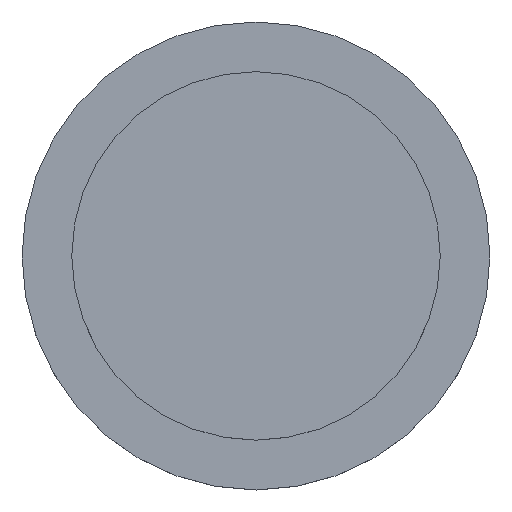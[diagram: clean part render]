
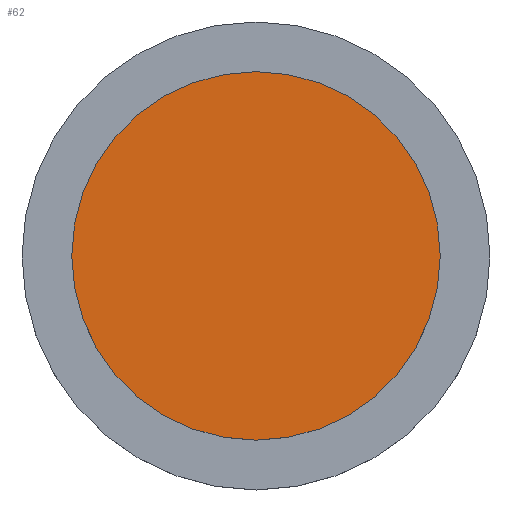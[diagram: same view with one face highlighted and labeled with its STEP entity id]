
A CAD part, top view. The second image highlights one B-rep face of the part: STEP entity #62.
In plain terms, the highlighted planar face has unit normal (0, 0, 1).
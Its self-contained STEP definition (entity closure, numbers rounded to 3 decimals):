
#62=ADVANCED_FACE('',(#80),#81,.T.);
#80=FACE_OUTER_BOUND('',#98,.T.);
#81=PLANE('',#99);
#98=EDGE_LOOP('',(#150,#151));
#99=AXIS2_PLACEMENT_3D('',#152,#153,#154);
#150=ORIENTED_EDGE('',*,*,#166,.T.);
#151=ORIENTED_EDGE('',*,*,#167,.T.);
#152=CARTESIAN_POINT('',(0.0,0.0,5.5));
#153=DIRECTION('',(0.0,0.0,1.0));
#154=DIRECTION('',(1.0,0.0,0.0));
#166=EDGE_CURVE('',#183,#187,#189,.T.);
#167=EDGE_CURVE('',#187,#183,#190,.T.);
#183=VERTEX_POINT('',#208);
#187=VERTEX_POINT('',#213);
#189=CIRCLE('',#216,10.0);
#190=CIRCLE('',#217,10.0);
#208=CARTESIAN_POINT('',(10.0,0.0,5.5));
#213=CARTESIAN_POINT('',(-10.0,0.,5.5));
#216=AXIS2_PLACEMENT_3D('',#244,#245,#246);
#217=AXIS2_PLACEMENT_3D('',#247,#248,#249);
#244=CARTESIAN_POINT('',(0.0,0.0,5.5));
#245=DIRECTION('',(0.0,0.0,1.0));
#246=DIRECTION('',(1.0,0.0,0.0));
#247=CARTESIAN_POINT('',(0.0,0.0,5.5));
#248=DIRECTION('',(0.0,0.0,1.0));
#249=DIRECTION('',(1.0,0.0,0.0));
